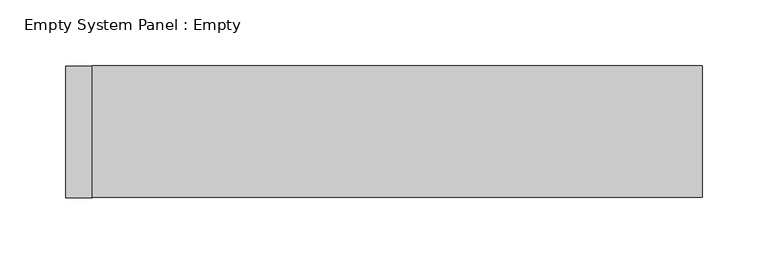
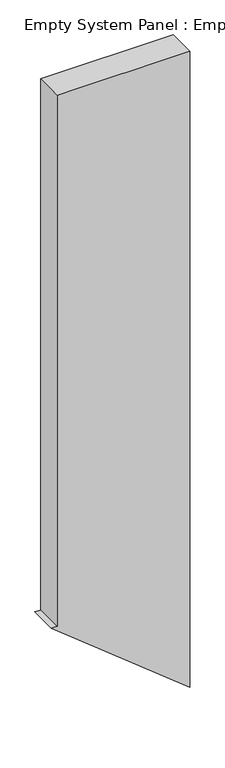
"""IFC4 building model written with IfcOpenShell, lengths in millimetres: plate geometry, Empty System Panel : Empty."""

from ifc_helpers import new_model, si_unit, frame, origin, place, context, project, spatial, polyline, outline, extrude, source, transform, mapped, element, save


def empty_system_panel_empty_88447399(model_context):
    return source(origin(), model_context, "Body", "SweptSolid", [
        extrude(outline(polyline([(387.504061, -241.7391304), (0.0, 241.7391304), (2351.8304961, 241.7391304), (2351.8304961, -221.7391304), (387.504061, -221.7391304), (387.504061, -241.7391304)])), frame((0.0, -50.0, 0.0), z_axis=(0.0, 1.0, 0.0), x_axis=(0.0, 0.0, 1.0)), (0.0, 0.0, 1.0), 100.0),
    ])


if __name__ == "__main__":
    model = new_model("IFC4")
    model_context = context("Model", 3, world=origin())
    ifc_project = project(units=[si_unit("LENGTHUNIT", "METRE", prefix="MILLI")], contexts=[model_context])
    site = spatial("IfcSite", under=ifc_project)
    building = spatial("IfcBuilding", under=site)
    placement = place(None, origin())
    empty_system_panel_empty_shape = empty_system_panel_empty_88447399(model_context)
    element("IfcPlate", 1, ObjectType="Empty System Panel : Empty", at=placement, inside=building, context=model_context, shape_type="MappedRepresentation", body=[
        mapped(empty_system_panel_empty_shape, transform((0.0, 0.0, 0.0), x_axis=(1.0, 0.0, 0.0), y_axis=(0.0, 1.0, 0.0), z_axis=(0.0, 0.0, 1.0))),
    ])
    save(model, "model.ifc")
